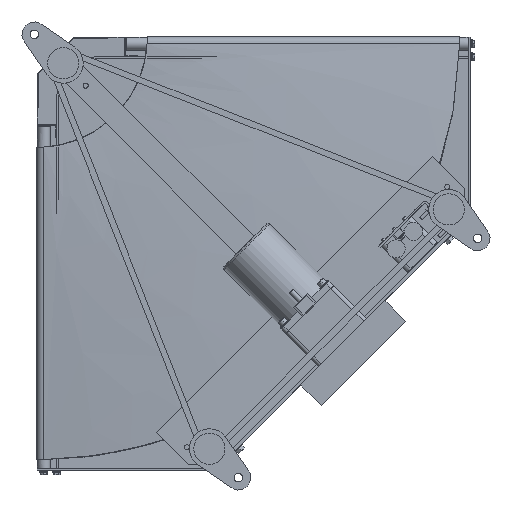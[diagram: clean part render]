
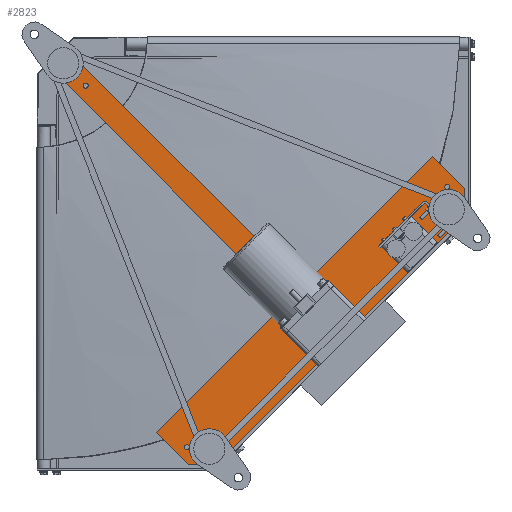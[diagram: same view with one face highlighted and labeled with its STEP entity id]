
A CAD part, front view. The second image highlights one B-rep face of the part: STEP entity #2823.
In plain terms, the highlighted planar face has unit normal (0, -1, 0).
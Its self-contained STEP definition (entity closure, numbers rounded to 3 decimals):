
#2823=ADVANCED_FACE('',(#7429),#7428,.T.);
#7428=PLANE('',#18425);
#7429=FACE_OUTER_BOUND('',#18426,.T.);
#18422=CARTESIAN_POINT('',(5.203,-167.5,-5.203));
#18423=DIRECTION('',(0.,-1.,0.));
#18424=DIRECTION('',(0.,0.,-1.));
#18425=AXIS2_PLACEMENT_3D('',#18422,#18423,#18424);
#18426=EDGE_LOOP('',(#25060,#25061,#25062,#25063,#25064,#25065,#25066,#25067,#25068,#25069));
#25060=ORIENTED_EDGE('',*,*,#29423,.F.);
#25061=ORIENTED_EDGE('',*,*,#29427,.F.);
#25062=ORIENTED_EDGE('',*,*,#29405,.F.);
#25063=ORIENTED_EDGE('',*,*,#29413,.F.);
#25064=ORIENTED_EDGE('',*,*,#29428,.F.);
#25065=ORIENTED_EDGE('',*,*,#29429,.F.);
#25066=ORIENTED_EDGE('',*,*,#29409,.F.);
#25067=ORIENTED_EDGE('',*,*,#29430,.F.);
#25068=ORIENTED_EDGE('',*,*,#29431,.F.);
#25069=ORIENTED_EDGE('',*,*,#29399,.F.);
#29399=EDGE_CURVE('',#36896,#36897,#36898,.T.);
#29405=EDGE_CURVE('',#36938,#36939,#36940,.T.);
#29409=EDGE_CURVE('',#36966,#36967,#36968,.T.);
#29413=EDGE_CURVE('',#36994,#36938,#36995,.T.);
#29423=EDGE_CURVE('',#37061,#36896,#37062,.T.);
#29427=EDGE_CURVE('',#36939,#37061,#37087,.T.);
#29428=EDGE_CURVE('',#37093,#36994,#37094,.T.);
#29429=EDGE_CURVE('',#36967,#37093,#37100,.T.);
#29430=EDGE_CURVE('',#37106,#36966,#37107,.T.);
#29431=EDGE_CURVE('',#36897,#37106,#37113,.T.);
#36896=VERTEX_POINT('',#52968);
#36897=VERTEX_POINT('',#52969);
#36898=LINE('',#52970,#52971);
#36938=VERTEX_POINT('',#52994);
#36939=VERTEX_POINT('',#52995);
#36940=LINE('',#52996,#52997);
#36966=VERTEX_POINT('',#53010);
#36967=VERTEX_POINT('',#53011);
#36968=LINE('',#53012,#53013);
#36994=VERTEX_POINT('',#53026);
#36995=LINE('',#53027,#53028);
#37061=VERTEX_POINT('',#53063);
#37062=LINE('',#53064,#53065);
#37087=LINE('',#53077,#53078);
#37093=VERTEX_POINT('',#53080);
#37094=LINE('',#53081,#53082);
#37100=LINE('',#53084,#53085);
#37106=VERTEX_POINT('',#53087);
#37107=LINE('',#53088,#53089);
#37113=LINE('',#53091,#53092);
#52968=CARTESIAN_POINT('',(15.203,-167.5,-42.073));
#52969=CARTESIAN_POINT('',(42.073,-167.5,-15.203));
#52970=CARTESIAN_POINT('',(15.203,-167.5,-42.073));
#52971=VECTOR('',#52972,38.);
#52972=DIRECTION('',(0.707,0.,0.707));
#52994=CARTESIAN_POINT('',(232.638,-167.5,-656.902));
#52995=CARTESIAN_POINT('',(183.141,-167.5,-607.405));
#52996=CARTESIAN_POINT('',(232.638,-167.5,-656.902));
#52997=VECTOR('',#52998,70.);
#52998=DIRECTION('',(-0.707,0.,0.707));
#53010=CARTESIAN_POINT('',(607.405,-167.5,-183.141));
#53011=CARTESIAN_POINT('',(656.902,-167.5,-232.638));
#53012=CARTESIAN_POINT('',(607.405,-167.5,-183.141));
#53013=VECTOR('',#53014,70.);
#53014=DIRECTION('',(0.707,0.,-0.707));
#53026=CARTESIAN_POINT('',(275.065,-167.5,-656.902));
#53027=CARTESIAN_POINT('',(275.065,-167.5,-656.902));
#53028=VECTOR('',#53029,42.426);
#53029=DIRECTION('',(-1.,0.,0.));
#53063=CARTESIAN_POINT('',(381.838,-167.5,-408.708));
#53064=CARTESIAN_POINT('',(381.838,-167.5,-408.708));
#53065=VECTOR('',#53066,518.5);
#53066=DIRECTION('',(-0.707,0.,0.707));
#53077=CARTESIAN_POINT('',(183.141,-167.5,-607.405));
#53078=VECTOR('',#53079,281.);
#53079=DIRECTION('',(0.707,0.,0.707));
#53080=CARTESIAN_POINT('',(656.902,-167.5,-275.065));
#53081=CARTESIAN_POINT('',(656.902,-167.5,-275.065));
#53082=VECTOR('',#53083,540.);
#53083=DIRECTION('',(-0.707,0.,-0.707));
#53084=CARTESIAN_POINT('',(656.902,-167.5,-232.638));
#53085=VECTOR('',#53086,42.426);
#53086=DIRECTION('',(0.,0.,-1.));
#53087=CARTESIAN_POINT('',(408.708,-167.5,-381.838));
#53088=CARTESIAN_POINT('',(408.708,-167.5,-381.838));
#53089=VECTOR('',#53090,281.);
#53090=DIRECTION('',(0.707,0.,0.707));
#53091=CARTESIAN_POINT('',(42.073,-167.5,-15.203));
#53092=VECTOR('',#53093,518.5);
#53093=DIRECTION('',(0.707,0.,-0.707));
